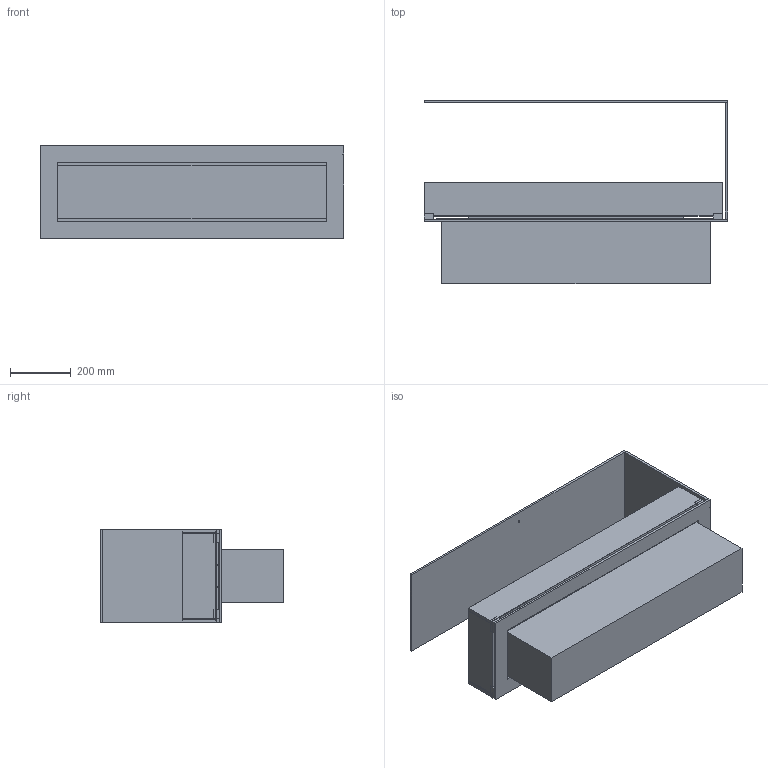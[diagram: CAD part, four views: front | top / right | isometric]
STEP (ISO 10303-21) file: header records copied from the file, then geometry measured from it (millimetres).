
FILE_DESCRIPTION (( 'STEP AP203' ), '1' );
FILE_NAME ('Montreal open to front, back and 1 side 1000 Hybrid Mist.STEP', '2024-03-21T14:28:11', ( '' ), ( '' ), 'SwSTEP 2.0', 'SolidWorks 2023', '' );
FILE_SCHEMA (( 'CONFIG_CONTROL_DESIGN' ));
Length unit declared in the file: millimetre
Products named in the file (9): 8mm alu Top - P&G -1120SIShowroom -look book; 8mm alu Side - P&G -1120SIShowroom -look book_Glass; Part4^P&G -1120SI Montreal Single AUTOShowroom -look book; Denver F6_uden glass; Montreal open to front, back and 1 side 1000 Hybrid Mist; Part2^P&G -1120SI Montreal Single AUTOShowroom -look book; 8mm alu Bund - P&G -1120SIShowroom -look book; Glas holder flad med sider 10mm; Part3^P&G -1120SI Montreal Single AUTOShowroom -look book
Assembly tree (13 placements, depth 2):
  Montreal open to front, back and 1 side 1000 Hybrid Mist
    8mm alu Top - P&G -1120SIShowroom -look book
    8mm alu Bund - P&G -1120SIShowroom -look book
    8mm alu Side - P&G -1120SIShowroom -look book_Glass
    Glas holder flad med sider 10mm  x6
    Part2^P&G -1120SI Montreal Single AUTOShowroom -look book
    Part4^P&G -1120SI Montreal Single AUTOShowroom -look book  x2
    Denver F6_uden glass
  Part3^P&G -1120SI Montreal Single AUTOShowroom -look book
Bounding box: 1000 x 605 x 308 mm (x, y, z)
Volume: 41378050.1 mm3; surface area: 2998844.5 mm2
Topology: 17 solids, 17 shells, 244 faces, 545 edges, 342 vertices
Faces by surface type: plane 214, cylinder 30
Entity records: 5372 total; most frequent: CARTESIAN_POINT 744, DIRECTION 736, ORIENTED_EDGE 704, EDGE_CURVE 352, VECTOR 312, LINE 312, VERTEX_POINT 220, AXIS2_PLACEMENT_3D 212
